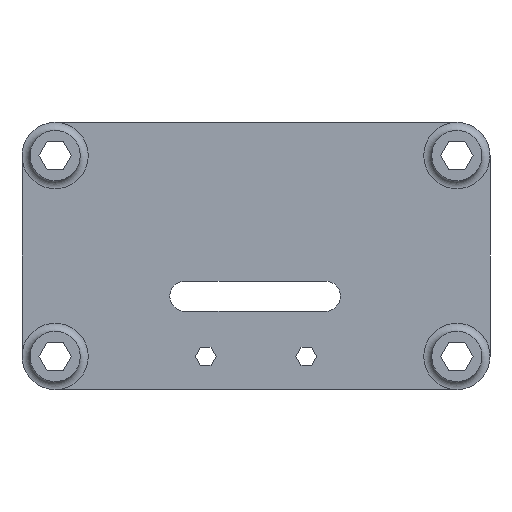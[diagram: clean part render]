
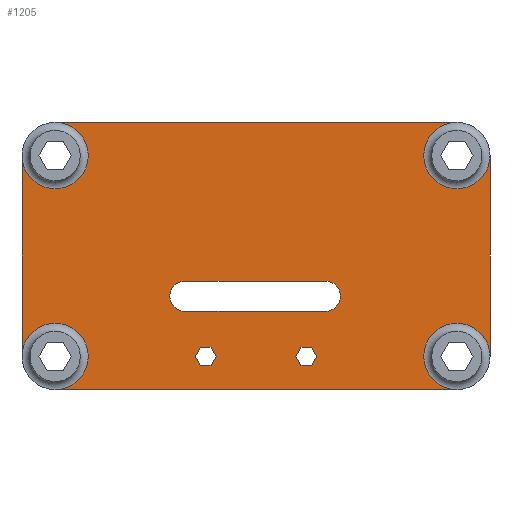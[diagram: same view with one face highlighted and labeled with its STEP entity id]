
A CAD part, front view. The second image highlights one B-rep face of the part: STEP entity #1205.
In plain terms, the highlighted planar face has unit normal (0, -1, 0).
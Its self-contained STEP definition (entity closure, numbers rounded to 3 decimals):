
#26=FACE_BOUND('',#197,.T.);
#27=FACE_BOUND('',#198,.T.);
#28=FACE_BOUND('',#199,.T.);
#33=CIRCLE('',#1268,1.5);
#35=CIRCLE('',#1272,1.5);
#47=CIRCLE('',#1295,3.3);
#49=CIRCLE('',#1298,3.3);
#50=CIRCLE('',#1299,3.3);
#51=CIRCLE('',#1300,3.3);
#52=CIRCLE('',#1301,3.3);
#53=CIRCLE('',#1302,3.3);
#127=FACE_OUTER_BOUND('',#196,.T.);
#196=EDGE_LOOP('',(#1013,#1014,#1015,#1016,#1017,#1018,#1019,#1020,#1021,
#1022));
#197=EDGE_LOOP('',(#1023,#1024,#1025,#1026,#1027,#1028));
#198=EDGE_LOOP('',(#1029,#1030,#1031,#1032,#1033,#1034));
#199=EDGE_LOOP('',(#1035,#1036,#1037,#1038));
#217=LINE('',#1665,#353);
#220=LINE('',#1671,#356);
#223=LINE('',#1677,#359);
#226=LINE('',#1683,#362);
#229=LINE('',#1689,#365);
#232=LINE('',#1693,#368);
#235=LINE('',#1701,#371);
#238=LINE('',#1707,#374);
#241=LINE('',#1713,#377);
#244=LINE('',#1719,#380);
#247=LINE('',#1725,#383);
#250=LINE('',#1729,#386);
#325=LINE('',#1885,#461);
#329=LINE('',#1896,#465);
#335=LINE('',#1912,#471);
#343=LINE('',#1938,#479);
#345=LINE('',#1944,#481);
#346=LINE('',#1946,#482);
#353=VECTOR('',#1333,10.);
#356=VECTOR('',#1338,10.);
#359=VECTOR('',#1343,10.);
#362=VECTOR('',#1348,10.);
#365=VECTOR('',#1353,10.);
#368=VECTOR('',#1358,10.);
#371=VECTOR('',#1363,10.);
#374=VECTOR('',#1368,10.);
#377=VECTOR('',#1373,10.);
#380=VECTOR('',#1378,10.);
#383=VECTOR('',#1383,10.);
#386=VECTOR('',#1388,10.);
#461=VECTOR('',#1519,10.);
#465=VECTOR('',#1531,10.);
#471=VECTOR('',#1545,10.);
#479=VECTOR('',#1571,10.);
#481=VECTOR('',#1579,10.);
#482=VECTOR('',#1582,10.);
#489=VERTEX_POINT('',#1662);
#490=VERTEX_POINT('',#1664);
#492=VERTEX_POINT('',#1670);
#494=VERTEX_POINT('',#1676);
#496=VERTEX_POINT('',#1682);
#498=VERTEX_POINT('',#1688);
#501=VERTEX_POINT('',#1698);
#502=VERTEX_POINT('',#1700);
#504=VERTEX_POINT('',#1706);
#506=VERTEX_POINT('',#1712);
#508=VERTEX_POINT('',#1718);
#510=VERTEX_POINT('',#1724);
#559=VERTEX_POINT('',#1875);
#560=VERTEX_POINT('',#1876);
#563=VERTEX_POINT('',#1884);
#565=VERTEX_POINT('',#1890);
#567=VERTEX_POINT('',#1899);
#568=VERTEX_POINT('',#1900);
#572=VERTEX_POINT('',#1910);
#578=VERTEX_POINT('',#1926);
#579=VERTEX_POINT('',#1930);
#580=VERTEX_POINT('',#1932);
#581=VERTEX_POINT('',#1936);
#582=VERTEX_POINT('',#1940);
#585=VERTEX_POINT('',#1955);
#586=VERTEX_POINT('',#1958);
#599=EDGE_CURVE('',#490,#489,#217,.T.);
#602=EDGE_CURVE('',#492,#490,#220,.T.);
#605=EDGE_CURVE('',#494,#492,#223,.T.);
#608=EDGE_CURVE('',#496,#494,#226,.T.);
#611=EDGE_CURVE('',#498,#496,#229,.T.);
#614=EDGE_CURVE('',#489,#498,#232,.T.);
#617=EDGE_CURVE('',#502,#501,#235,.T.);
#620=EDGE_CURVE('',#504,#502,#238,.T.);
#623=EDGE_CURVE('',#506,#504,#241,.T.);
#626=EDGE_CURVE('',#508,#506,#244,.T.);
#629=EDGE_CURVE('',#510,#508,#247,.T.);
#632=EDGE_CURVE('',#501,#510,#250,.T.);
#705=EDGE_CURVE('',#559,#560,#33,.T.);
#709=EDGE_CURVE('',#560,#563,#325,.T.);
#712=EDGE_CURVE('',#563,#565,#35,.T.);
#715=EDGE_CURVE('',#565,#559,#329,.T.);
#723=EDGE_CURVE('',#572,#568,#335,.T.);
#736=EDGE_CURVE('',#581,#579,#343,.T.);
#739=EDGE_CURVE('',#567,#582,#345,.T.);
#740=EDGE_CURVE('',#580,#578,#346,.T.);
#743=EDGE_CURVE('',#579,#580,#47,.T.);
#745=EDGE_CURVE('',#585,#581,#49,.T.);
#746=EDGE_CURVE('',#582,#585,#50,.T.);
#747=EDGE_CURVE('',#586,#567,#51,.T.);
#748=EDGE_CURVE('',#568,#586,#52,.T.);
#749=EDGE_CURVE('',#578,#572,#53,.T.);
#1013=ORIENTED_EDGE('',*,*,#743,.F.);
#1014=ORIENTED_EDGE('',*,*,#736,.F.);
#1015=ORIENTED_EDGE('',*,*,#745,.F.);
#1016=ORIENTED_EDGE('',*,*,#746,.F.);
#1017=ORIENTED_EDGE('',*,*,#739,.F.);
#1018=ORIENTED_EDGE('',*,*,#747,.F.);
#1019=ORIENTED_EDGE('',*,*,#748,.F.);
#1020=ORIENTED_EDGE('',*,*,#723,.F.);
#1021=ORIENTED_EDGE('',*,*,#749,.F.);
#1022=ORIENTED_EDGE('',*,*,#740,.F.);
#1023=ORIENTED_EDGE('',*,*,#608,.T.);
#1024=ORIENTED_EDGE('',*,*,#605,.T.);
#1025=ORIENTED_EDGE('',*,*,#602,.T.);
#1026=ORIENTED_EDGE('',*,*,#599,.T.);
#1027=ORIENTED_EDGE('',*,*,#614,.T.);
#1028=ORIENTED_EDGE('',*,*,#611,.T.);
#1029=ORIENTED_EDGE('',*,*,#626,.T.);
#1030=ORIENTED_EDGE('',*,*,#623,.T.);
#1031=ORIENTED_EDGE('',*,*,#620,.T.);
#1032=ORIENTED_EDGE('',*,*,#617,.T.);
#1033=ORIENTED_EDGE('',*,*,#632,.T.);
#1034=ORIENTED_EDGE('',*,*,#629,.T.);
#1035=ORIENTED_EDGE('',*,*,#705,.T.);
#1036=ORIENTED_EDGE('',*,*,#709,.T.);
#1037=ORIENTED_EDGE('',*,*,#712,.T.);
#1038=ORIENTED_EDGE('',*,*,#715,.T.);
#1150=PLANE('',#1297);
#1205=ADVANCED_FACE('',(#127,#26,#27,#28),#1150,.F.);
#1268=AXIS2_PLACEMENT_3D('',#1877,#1511,#1512);
#1272=AXIS2_PLACEMENT_3D('',#1891,#1524,#1525);
#1295=AXIS2_PLACEMENT_3D('',#1952,#1589,#1590);
#1297=AXIS2_PLACEMENT_3D('',#1954,#1593,#1594);
#1298=AXIS2_PLACEMENT_3D('',#1956,#1595,#1596);
#1299=AXIS2_PLACEMENT_3D('',#1957,#1597,#1598);
#1300=AXIS2_PLACEMENT_3D('',#1959,#1599,#1600);
#1301=AXIS2_PLACEMENT_3D('',#1960,#1601,#1602);
#1302=AXIS2_PLACEMENT_3D('',#1961,#1603,#1604);
#1333=DIRECTION('',(-0.5,0.,-0.866));
#1338=DIRECTION('',(0.5,0.,-0.866));
#1343=DIRECTION('',(1.,0.,0.));
#1348=DIRECTION('',(0.5,0.,0.866));
#1353=DIRECTION('',(-0.5,0.,0.866));
#1358=DIRECTION('',(-1.,0.,0.));
#1363=DIRECTION('',(-0.5,0.,-0.866));
#1368=DIRECTION('',(0.5,0.,-0.866));
#1373=DIRECTION('',(1.,0.,0.));
#1378=DIRECTION('',(0.5,0.,0.866));
#1383=DIRECTION('',(-0.5,0.,0.866));
#1388=DIRECTION('',(-1.,0.,0.));
#1511=DIRECTION('center_axis',(0.,1.,0.));
#1512=DIRECTION('ref_axis',(0.,0.,-1.));
#1519=DIRECTION('',(1.,0.,0.));
#1524=DIRECTION('center_axis',(0.,1.,0.));
#1525=DIRECTION('ref_axis',(0.,0.,1.));
#1531=DIRECTION('',(-1.,0.,0.));
#1545=DIRECTION('',(0.,0.,1.));
#1571=DIRECTION('',(0.,0.,-1.));
#1579=DIRECTION('',(1.,0.,0.));
#1582=DIRECTION('',(-1.,0.,0.));
#1589=DIRECTION('center_axis',(0.,-1.,0.));
#1590=DIRECTION('ref_axis',(1.,0.,0.));
#1593=DIRECTION('center_axis',(0.,1.,0.));
#1594=DIRECTION('ref_axis',(-1.,0.,0.));
#1595=DIRECTION('center_axis',(0.,-1.,0.));
#1596=DIRECTION('ref_axis',(1.,0.,0.));
#1597=DIRECTION('center_axis',(0.,-1.,0.));
#1598=DIRECTION('ref_axis',(1.,0.,0.));
#1599=DIRECTION('center_axis',(0.,-1.,0.));
#1600=DIRECTION('ref_axis',(1.,0.,0.));
#1601=DIRECTION('center_axis',(0.,-1.,0.));
#1602=DIRECTION('ref_axis',(1.,0.,0.));
#1603=DIRECTION('center_axis',(0.,-1.,0.));
#1604=DIRECTION('ref_axis',(1.,0.,0.));
#1662=CARTESIAN_POINT('',(-4.48,3.2,-10.9));
#1664=CARTESIAN_POINT('',(-3.961,3.2,-10.));
#1665=CARTESIAN_POINT('',(-1.301,3.2,-5.392));
#1670=CARTESIAN_POINT('',(-4.48,3.2,-9.1));
#1671=CARTESIAN_POINT('',(-5.891,3.2,-6.658));
#1676=CARTESIAN_POINT('',(-5.52,3.2,-9.1));
#1677=CARTESIAN_POINT('',(-2.76,3.2,-9.1));
#1682=CARTESIAN_POINT('',(-6.039,3.2,-10.));
#1683=CARTESIAN_POINT('',(-3.119,3.2,-4.942));
#1688=CARTESIAN_POINT('',(-5.52,3.2,-10.9));
#1689=CARTESIAN_POINT('',(-7.19,3.2,-8.008));
#1693=CARTESIAN_POINT('',(-2.24,3.2,-10.9));
#1698=CARTESIAN_POINT('',(5.52,3.2,-10.9));
#1700=CARTESIAN_POINT('',(6.039,3.2,-10.));
#1701=CARTESIAN_POINT('',(7.449,3.2,-7.558));
#1706=CARTESIAN_POINT('',(5.52,3.2,-9.1));
#1707=CARTESIAN_POINT('',(2.859,3.2,-4.492));
#1712=CARTESIAN_POINT('',(4.48,3.2,-9.1));
#1713=CARTESIAN_POINT('',(2.24,3.2,-9.1));
#1718=CARTESIAN_POINT('',(3.961,3.2,-10.));
#1719=CARTESIAN_POINT('',(5.631,3.2,-7.108));
#1724=CARTESIAN_POINT('',(4.48,3.2,-10.9));
#1725=CARTESIAN_POINT('',(1.56,3.2,-5.842));
#1729=CARTESIAN_POINT('',(2.76,3.2,-10.9));
#1875=CARTESIAN_POINT('',(-7.084,3.2,-5.5));
#1876=CARTESIAN_POINT('',(-7.084,3.2,-2.5));
#1877=CARTESIAN_POINT('Origin',(-7.084,3.2,-4.));
#1884=CARTESIAN_POINT('',(6.916,3.2,-2.5));
#1885=CARTESIAN_POINT('',(3.458,3.2,-2.5));
#1890=CARTESIAN_POINT('',(6.916,3.2,-5.5));
#1891=CARTESIAN_POINT('Origin',(6.916,3.2,-4.));
#1896=CARTESIAN_POINT('',(-3.542,3.2,-5.5));
#1899=CARTESIAN_POINT('',(-20.,3.2,13.3));
#1900=CARTESIAN_POINT('',(-23.3,3.2,10.));
#1910=CARTESIAN_POINT('',(-23.3,3.2,-10.));
#1912=CARTESIAN_POINT('',(-23.3,3.2,-11.3));
#1926=CARTESIAN_POINT('',(-20.,3.2,-13.3));
#1930=CARTESIAN_POINT('',(23.3,3.2,-10.));
#1932=CARTESIAN_POINT('',(20.,3.2,-13.3));
#1936=CARTESIAN_POINT('',(23.3,3.2,10.));
#1938=CARTESIAN_POINT('',(23.3,3.2,11.3));
#1940=CARTESIAN_POINT('',(20.,3.2,13.3));
#1944=CARTESIAN_POINT('',(-20.8,3.2,13.3));
#1946=CARTESIAN_POINT('',(20.8,3.2,-13.3));
#1952=CARTESIAN_POINT('Origin',(20.,3.2,-10.));
#1954=CARTESIAN_POINT('Origin',(0.,3.2,0.));
#1955=CARTESIAN_POINT('',(20.,3.2,6.7));
#1956=CARTESIAN_POINT('Origin',(20.,3.2,10.));
#1957=CARTESIAN_POINT('Origin',(20.,3.2,10.));
#1958=CARTESIAN_POINT('',(-20.,3.2,6.7));
#1959=CARTESIAN_POINT('Origin',(-20.,3.2,10.));
#1960=CARTESIAN_POINT('Origin',(-20.,3.2,10.));
#1961=CARTESIAN_POINT('Origin',(-20.,3.2,-10.));
